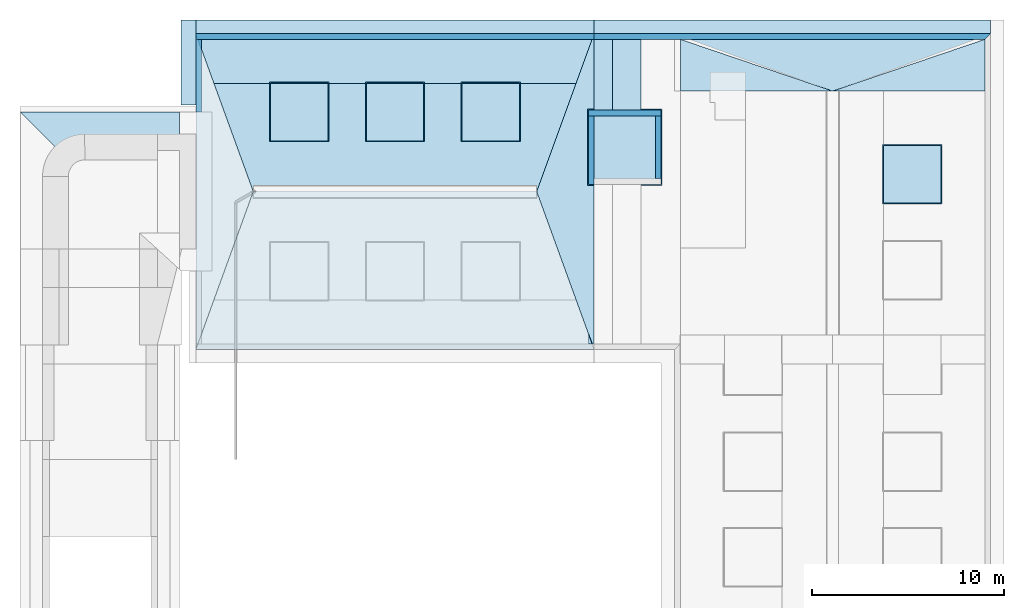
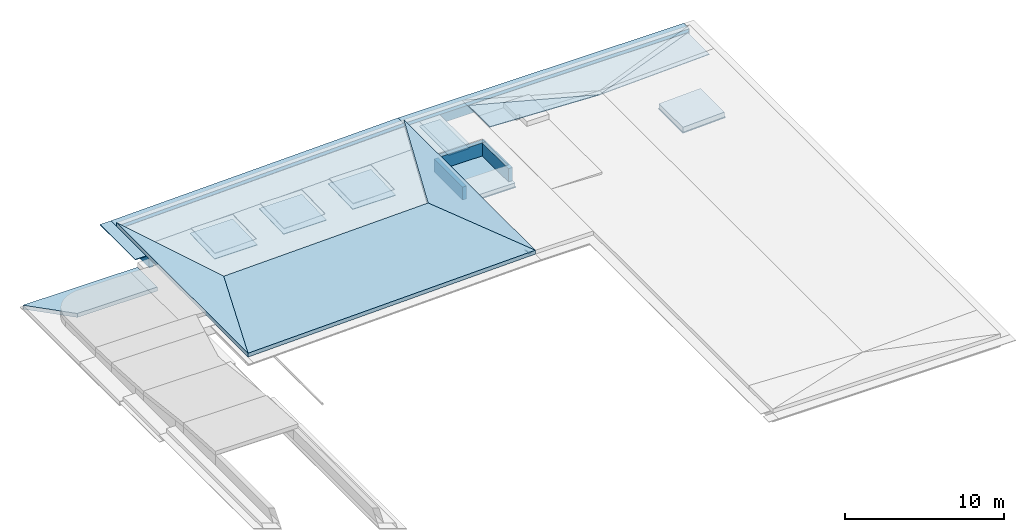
# One storey, part 4 of 8: 30 footings, 3 slabs.
"""IFC4 building model written with IfcOpenShell, lengths in millimetres."""

from ifc_helpers import new_model, entity, si_unit, converted_unit, derived_unit, direction, frame, origin_with_axes, place, context, subcontext, project, spatial, polygons, material, type_object, element, save


model = new_model("IFC4")

# Units and contexts
model_context = context("Model", 3, precision=0.01, world=origin_with_axes(), true_north=direction((0.0, 1.0)))
body_context = subcontext(model_context, "Body", "Model", "MODEL_VIEW")
ifc_project = project(units=[si_unit("LENGTHUNIT", "METRE", prefix="MILLI"), si_unit("AREAUNIT", "SQUARE_METRE"), si_unit("VOLUMEUNIT", "CUBIC_METRE"), converted_unit("PLANEANGLEUNIT", "DEGREE", entity("IfcPlaneAngleMeasure", 0.0174532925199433), si_unit("PLANEANGLEUNIT", "RADIAN"), dimensions=[0, 0, 0, 0, 0, 0, 0]), converted_unit("TIMEUNIT", "Year", entity("IfcTimeMeasure", 31557600.0), si_unit("TIMEUNIT", "SECOND"), dimensions=[0, 0, 1, 0, 0, 0, 0]), si_unit("MASSUNIT", "GRAM", prefix="KILO"), si_unit("THERMODYNAMICTEMPERATUREUNIT", "DEGREE_CELSIUS"), si_unit("LUMINOUSINTENSITYUNIT", "LUMEN"), si_unit("ENERGYUNIT", "JOULE", prefix="MEGA"), derived_unit("THERMALCONDUCTANCEUNIT", [(si_unit("POWERUNIT", "WATT"), 1), (si_unit("LENGTHUNIT", "METRE"), -1), (si_unit("THERMODYNAMICTEMPERATUREUNIT", "KELVIN"), -1)]), derived_unit("SPECIFICHEATCAPACITYUNIT", [(si_unit("ENERGYUNIT", "JOULE"), 1), (si_unit("MASSUNIT", "GRAM", prefix="KILO"), -1), (si_unit("THERMODYNAMICTEMPERATUREUNIT", "KELVIN"), -1)]), derived_unit("MASSDENSITYUNIT", [(si_unit("MASSUNIT", "GRAM", prefix="KILO"), 1), (si_unit("VOLUMEUNIT", "CUBIC_METRE"), -1)])], contexts=[model_context])

# Site, building, storey
site_placement = place(None, origin_with_axes())
site = spatial("IfcSite", under=ifc_project, at=site_placement, Name="Gelände", CompositionType="ELEMENT")
building_placement = place(site_placement, origin_with_axes())
building = spatial("IfcBuilding", under=site, at=building_placement, Name="Gebäude", CompositionType="ELEMENT")
storey_placement = place(building_placement, frame((0.0, 0.0, -6000.0), z_axis=(0.0, 0.0, 1.0), x_axis=(1.0, 0.0, 0.0)))
storey = spatial("IfcBuildingStorey", under=building, at=storey_placement, Name="Fundation", CompositionType="ELEMENT", Elevation=-6000.0)

# Footings
ifc_material_1 = material(Name="Magerbeton")
footing_type_1 = type_object("IfcFootingType", Name="Magerbeton 50", PredefinedType="NOTDEFINED")
footing_1_placement = place(storey_placement, frame((13728.998626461, 38005.28956516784, 2349.956716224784), z_axis=(0.0, 0.0, 1.0), x_axis=(-0.7208330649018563, 0.6931087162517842, 0.0)))
element("IfcFooting", 1, at=footing_1_placement, inside=storey, type_object=footing_type_1, material=ifc_material_1, Name="Dach-008", PredefinedType="NOTDEFINED", context=body_context, shape_type="Tessellation", body=[
    polygons([(-1474.721182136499, 8026.199801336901, -283.9951956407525), (960.1485681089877, 2529.943929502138, -55.24921381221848), (3089.754733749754, 4577.642165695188, -140.4713640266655), (1011.213450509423, 6739.325100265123, -230.4373875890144), (3173.712658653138, 8818.651261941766, -316.9758449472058), (5252.25394189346, 6656.968327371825, -227.0098213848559), (6693.920012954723, 8043.185703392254, -284.7021235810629), (4623.668678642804, 10196.24709107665, -374.3093312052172), (6786.167886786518, 12275.5732527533, -460.8477885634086), (8856.419221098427, 10122.5118650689, -371.2405809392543), (10298.08549526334, 11508.72943638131, -428.932891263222), (8219.65318494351, 13670.29903911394, -518.8941981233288), (10382.15239308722, 15749.62520079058, -605.4326554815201), (12460.58470340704, 13588.05559805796, -515.4713486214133), (14590.19086904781, 15635.75383425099, -600.6934988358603), (9193.608028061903, 18284.2086572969, -710.9182432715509), (9401.540663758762, 18067.95871617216, -701.9182428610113), (-1266.788546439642, 7809.949860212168, -274.9951952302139), (-1474.721182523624, 8026.19980116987, -334.0384792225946), (960.1485678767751, 2529.943929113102, -105.2924973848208), (3089.754733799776, 4577.642166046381, -190.5146476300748), (1011.213450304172, 6739.325100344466, -280.4806711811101), (3173.712658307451, 8818.651261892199, -367.0191285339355), (5252.253941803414, 6656.968327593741, -277.053104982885), (6693.920013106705, 8043.18570317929, -334.7454071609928), (4623.668678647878, 10196.2470908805, -424.352614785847), (6786.167886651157, 12275.57325242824, -510.8910721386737), (8856.419221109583, 10122.51186472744, -421.2838645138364), (10298.08549544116, 11508.72943665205, -478.9761748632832), (8219.653185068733, 13670.29903955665, -568.937481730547), (10382.15239307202, 15749.62520110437, -655.4759390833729), (12460.58470344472, 13588.05559819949, -565.5146322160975), (14590.19086936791, 15635.75383420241, -650.7367824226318), (9193.608028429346, 18284.20865724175, -760.9615268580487), (9401.540663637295, 18067.95871624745, -751.9615264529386), (-1266.788546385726, 7809.949860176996, -325.0384788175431)], [[[1, 2, 3, 4, 5, 6, 7, 8, 9, 10, 11, 12, 13, 14, 15, 16, 17, 18]], [[2, 1, 19, 20]], [[3, 2, 20, 21]], [[4, 3, 21, 22]], [[5, 4, 22, 23]], [[6, 5, 23, 24]], [[7, 6, 24, 25]], [[8, 7, 25, 26]], [[9, 8, 26, 27]], [[10, 9, 27, 28]], [[11, 10, 28, 29]], [[12, 11, 29, 30]], [[13, 12, 30, 31]], [[14, 13, 31, 32]], [[15, 14, 32, 33]], [[16, 15, 33, 34]], [[17, 16, 34, 35]], [[18, 17, 35, 36]], [[1, 18, 36, 19]], [[20, 19, 36, 35, 34, 33, 32, 31, 30, 29, 28, 27, 26, 25, 24, 23, 22, 21]]], closed=True),
])
footing_2_placement = place(storey_placement, frame((13728.998626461, 38005.28956516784, 2349.956716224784), z_axis=(0.0, 0.0, 1.0), x_axis=(-0.7208330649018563, 0.6931087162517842, 0.0)))
element("IfcFooting", 2, at=footing_2_placement, inside=storey, type_object=footing_type_1, material=ifc_material_1, Name="Dach-008", PredefinedType="NOTDEFINED", context=body_context, shape_type="Tessellation", body=[
    polygons([(960.1486092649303, 2529.943886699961, -55.24921203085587), (1951.630216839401, 291.8625043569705, 37.89640112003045), (16650.07175211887, 14424.9793652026, -550.3028690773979), (16286.1898195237, 14803.41657510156, -566.0528620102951), (14590.19091020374, 15635.75379144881, -600.6934970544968), (960.1486088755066, 2529.9438870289, -105.2924956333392), (1951.630216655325, 291.8625039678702, -12.14688245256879), (16650.07175188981, 14424.97936516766, -600.3461526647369), (16286.18981931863, 14803.41657511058, -616.096145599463), (14590.19091036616, 15635.75379118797, -650.7367806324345)], [[[1, 2, 3, 4, 5]], [[2, 1, 6, 7]], [[3, 2, 7, 8]], [[4, 3, 8, 9]], [[5, 4, 9, 10]], [[5, 10, 6, 1]], [[7, 6, 10, 9, 8]]], closed=True),
])
footing_3_placement = place(storey_placement, frame((-8571.002555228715, 39447.59725747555, 1750.001432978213), z_axis=(0.0, 0.0, 1.0), x_axis=(0.0, 1.0, 0.0)))
element("IfcFooting", 3, at=footing_3_placement, inside=storey, type_object=footing_type_1, material=ifc_material_1, Name="Dach-009", PredefinedType="NOTDEFINED", context=body_context, shape_type="Tessellation", body=[
    polygons([(0.0, -20800.01001027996, 649.998567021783), (710.0000000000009, -20800.01001027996, 649.998567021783), (710.0000000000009, 0.0, 50.02079662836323), (0.0, 0.0, 50.02079662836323), (-3.895195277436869e-07, -20800.01001066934, 599.9777705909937), (709.9999995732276, -20800.01001066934, 599.9777705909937), (709.9999995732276, 2.153228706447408e-07, 1.801305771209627e-07), (-3.895195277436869e-07, 2.153228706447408e-07, 1.801305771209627e-07)], [[[1, 2, 3, 4]], [[2, 1, 5, 6]], [[3, 2, 6, 7]], [[4, 3, 7, 8]], [[1, 4, 8, 5]], [[6, 5, 8, 7]]], closed=True),
])
footing_4_placement = place(storey_placement, frame((16428.9973313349, 39447.59728131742, 2373.700024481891), z_axis=(0.0, 0.0, 1.0), x_axis=(1.0, 0.0, 0.0)))
element("IfcFooting", 4, at=footing_4_placement, inside=storey, type_object=footing_type_1, material=ifc_material_1, Name="Dach-009", PredefinedType="NOTDEFINED", context=body_context, shape_type="Tessellation", body=[
    polygons([(16200.00000000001, -300.0000238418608, 15.04690417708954), (300.0000000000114, -300.0000238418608, 15.04690417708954), (8250.000000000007, -3000.0, -302.6350957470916), (16200.00000038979, -300.0000234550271, -35.29800287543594), (300.0000000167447, -300.0000234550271, -35.29800287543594), (8250.000000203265, -3000.000000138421, -352.9800028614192)], [[[1, 2, 3]], [[2, 1, 4, 5]], [[3, 2, 5, 6]], [[1, 3, 6, 4]], [[5, 4, 6]]], closed=True),
])
footing_5_placement = place(storey_placement, frame((24678.9974447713, 36447.59728131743, 2021.024944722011), z_axis=(0.0, 0.0, 1.0), x_axis=(0.0, 1.0, 0.0)))
element("IfcFooting", 5, at=footing_5_placement, inside=storey, type_object=footing_type_1, material=ifc_material_1, Name="Dach-009", PredefinedType="NOTDEFINED", context=body_context, shape_type="Tessellation", body=[
    polygons([(2699.999976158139, -7950.000000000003, 368.0399840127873), (0.0, 0.0, 50.03998401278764), (0.0, -7950.000000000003, 368.0399840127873), (2699.999976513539, -7950.000000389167, 318.0000002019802), (-3.895195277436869e-07, 1.831637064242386e-07, 1.790869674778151e-07), (-3.895195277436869e-07, -7950.000000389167, 318.0000002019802)], [[[1, 2, 3]], [[2, 1, 4, 5]], [[3, 2, 5, 6]], [[1, 3, 6, 4]], [[5, 4, 6]]], closed=True),
])
footing_6_placement = place(storey_placement, frame((24678.9974447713, 39447.59728131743, 2021.024944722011), z_axis=(0.0, 0.0, 1.0), x_axis=(0.0, -1.0, 0.0)))
element("IfcFooting", 6, at=footing_6_placement, inside=storey, type_object=footing_type_1, material=ifc_material_1, Name="Dach-009", PredefinedType="NOTDEFINED", context=body_context, shape_type="Tessellation", body=[
    polygons([(300.0000238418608, -7949.999999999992, 368.0399840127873), (3000.0, -7950.000000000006, 368.0399840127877), (3000.0, 0.0, 50.03998401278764), (300.0000234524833, -7950.000000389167, 318.0000002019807), (3000.000000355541, -7950.000000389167, 318.0000002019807), (3000.000000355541, 1.831601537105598e-07, 1.790874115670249e-07)], [[[1, 2, 3]], [[2, 1, 4, 5]], [[3, 2, 5, 6]], [[1, 3, 6, 4]], [[5, 4, 6]]], closed=True),
])
footing_7_placement = place(storey_placement, frame((3378.997492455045, 36908.89159409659, 1572.371917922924), z_axis=(0.0, 0.0, 1.0), x_axis=(-1.0, 0.0, 0.0)))
element("IfcFooting", 7, at=footing_7_placement, inside=storey, type_object=footing_type_1, material=ifc_material_1, Name="Dach-009", PredefinedType="NOTDEFINED", context=body_context, shape_type="Tessellation", body=[
    polygons([(0.0, 0.0, 50.0215173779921), (3100.000000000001, 0.0, 50.0215173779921), (3100.000000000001, 3097.524291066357, -40.86220584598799), (0.0, 3097.524291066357, -40.86220584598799), (-3.89516419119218e-07, -3.894200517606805e-07, 1.977706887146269e-07), (3100.000000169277, -3.894200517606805e-07, 1.977706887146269e-07), (3100.000000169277, 3097.524290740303, -90.88372302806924), (-3.89516419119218e-07, 3097.524290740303, -90.88372302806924)], [[[1, 2, 3, 4]], [[2, 1, 5, 6]], [[3, 2, 6, 7]], [[4, 3, 7, 8]], [[1, 4, 8, 5]], [[6, 5, 8, 7]]], closed=True),
])
footing_8_placement = place(storey_placement, frame((8378.997492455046, 36908.6629722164, 1726.833414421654), z_axis=(0.0, 0.0, 1.0), x_axis=(-1.0, 0.0, 0.0)))
element("IfcFooting", 8, at=footing_8_placement, inside=storey, type_object=footing_type_1, material=ifc_material_1, Name="Dach-009", PredefinedType="NOTDEFINED", context=body_context, shape_type="Tessellation", body=[
    polygons([(0.0, 0.0, 50.02151737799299), (3100.000000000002, 0.0, 50.02151737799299), (3100.000000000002, 3097.524291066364, -40.8622058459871), (0.0, 3097.524291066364, -40.8622058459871), (-3.895159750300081e-07, -3.894200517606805e-07, 1.977706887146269e-07), (3100.000000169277, -3.894200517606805e-07, 1.977706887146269e-07), (3100.000000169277, 3097.524290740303, -90.88372302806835), (-3.895159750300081e-07, 3097.524290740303, -90.88372302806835)], [[[1, 2, 3, 4]], [[2, 1, 5, 6]], [[3, 2, 6, 7]], [[4, 3, 7, 8]], [[1, 4, 8, 5]], [[6, 5, 8, 7]]], closed=True),
])
footing_9_placement = place(storey_placement, frame((-1621.002507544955, 36910.28670883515, 1428.139015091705), z_axis=(0.0, 0.0, 1.0), x_axis=(-1.0, 0.0, 0.0)))
element("IfcFooting", 9, at=footing_9_placement, inside=storey, type_object=footing_type_1, material=ifc_material_1, Name="Dach-009", PredefinedType="NOTDEFINED", context=body_context, shape_type="Tessellation", body=[
    polygons([(0.0, 0.0, 50.0215173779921), (3100.000000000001, 0.0, 50.0215173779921), (3100.000000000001, 3097.524291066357, -40.86220584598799), (0.0, 3097.524291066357, -40.86220584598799), (-3.89516419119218e-07, -3.894200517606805e-07, 1.977706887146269e-07), (3100.000000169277, -3.894200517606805e-07, 1.977706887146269e-07), (3100.000000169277, 3097.524290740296, -90.88372302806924), (-3.89516419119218e-07, 3097.524290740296, -90.88372302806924)], [[[1, 2, 3, 4]], [[2, 1, 5, 6]], [[3, 2, 6, 7]], [[4, 3, 7, 8]], [[1, 4, 8, 5]], [[6, 5, 8, 7]]], closed=True),
])
footing_10_placement = place(storey_placement, frame((30393.75530074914, 30547.5972813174, 1872.231201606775), z_axis=(0.0, 0.0, 1.0), x_axis=(0.0, 1.0, 0.0)))
element("IfcFooting", 10, at=footing_10_placement, inside=storey, type_object=footing_type_1, material=ifc_material_1, Name="Dach-009", PredefinedType="NOTDEFINED", context=body_context, shape_type="Tessellation", body=[
    polygons([(0.0, 0.0, 50.03996270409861), (3099.999999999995, 0.0, 50.03996270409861), (3099.999999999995, 3097.524291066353, -73.82797606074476), (0.0, 3097.524291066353, -73.82797606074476), (-3.895159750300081e-07, -3.891642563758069e-07, 2.019753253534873e-07), (3100.000000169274, -3.891642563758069e-07, 2.019753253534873e-07), (3100.000000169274, 3097.524291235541, -123.867938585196), (-3.895159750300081e-07, 3097.524291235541, -123.867938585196)], [[[1, 2, 3, 4]], [[2, 1, 5, 6]], [[3, 2, 6, 7]], [[4, 3, 7, 8]], [[1, 4, 8, 5]], [[6, 5, 8, 7]]], closed=True),
])
footing_11_placement = place(storey_placement, frame((13178.99744477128, 35447.59728131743, 2000.0), z_axis=(0.0, 0.0, 1.0), x_axis=(1.0, 0.0, 0.0)))
element("IfcFooting", 11, at=footing_11_placement, inside=storey, type_object=footing_type_1, material=ifc_material_1, Name="Deckennr.-072", PredefinedType="NOTDEFINED", context=body_context, shape_type="Tessellation", body=[
    polygons([(1500.0, 0.0, 49.99999999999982), (0.0, 0.0, 49.99999999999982), (0.0, 0.0, 0.0), (1500.0, 0.0, 0.0), (1500.0, 3699.999976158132, 49.99999999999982), (0.0, 3699.999976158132, 49.99999999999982), (0.0, 3699.999976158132, 0.0), (1500.0, 3699.999976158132, 0.0)], [[[1, 2, 3, 4]], [[5, 6, 2, 1]], [[2, 6, 7, 3]], [[8, 4, 3, 7]], [[5, 1, 4, 8]], [[6, 5, 8, 7]]], closed=True),
])
footing_12_placement = place(storey_placement, frame((24678.99744477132, 39447.59728131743, 2021.024944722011), z_axis=(0.0, 0.0, 1.0), x_axis=(0.0, -1.0, 0.0)))
element("IfcFooting", 12, at=footing_12_placement, inside=storey, type_object=footing_type_1, material=ifc_material_1, Name="Dach-009", PredefinedType="NOTDEFINED", context=body_context, shape_type="Tessellation", body=[
    polygons([(300.0000238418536, -7949.999999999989, 368.0399840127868), (2999.999999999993, -7949.999999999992, 368.0399840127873), (3000.0, 0.0, 50.03998401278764), (300.0000234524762, -7950.000000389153, 318.0000002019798), (3000.000000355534, -7950.000000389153, 318.0000002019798), (3000.000000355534, 1.83174364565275e-07, 1.790865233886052e-07)], [[[1, 2, 3]], [[2, 1, 4, 5]], [[3, 2, 5, 6]], [[1, 3, 6, 4]], [[5, 4, 6]]], closed=True),
])
footing_13_placement = place(storey_placement, frame((12228.99744477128, 39147.59725747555, 2349.691005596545), z_axis=(0.0, 0.0, 1.0), x_axis=(0.0, -1.0, 0.0)))
element("IfcFooting", 13, at=footing_13_placement, inside=storey, type_object=footing_type_1, material=ifc_material_1, Name="Dach-009", PredefinedType="NOTDEFINED", context=body_context, shape_type="Tessellation", body=[
    polygons([(15900.00000000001, -294.4667584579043, 17.52125185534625), (15900.00000000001, -109.0909090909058, 38.1621406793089), (15390.21641424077, -294.4667584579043, 17.52125185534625), (15900.00000038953, -294.4667586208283, -32.78774237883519), (15900.00000038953, -109.090908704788, -12.14685349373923), (15390.21641390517, -294.4667586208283, -32.78774237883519)], [[[1, 2, 3]], [[2, 1, 4, 5]], [[3, 2, 5, 6]], [[1, 3, 6, 4]], [[5, 4, 6]]], closed=True),
])
footing_type_2 = type_object("IfcFootingType", Name="Magerbeton 50", PredefinedType="NOTDEFINED")
footing_14_placement = place(storey_placement, frame((12228.99744477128, 40157.59725747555, 2400.0), z_axis=(0.0, 0.0, 1.0), x_axis=(1.0, 0.0, 0.0)))
element("IfcFooting", 14, at=footing_14_placement, inside=storey, type_object=footing_type_2, material=ifc_material_1, Name="Deckennr.-072", PredefinedType="NOTDEFINED", context=body_context, shape_type="Tessellation", body=[
    polygons([(0.0, 0.0, 0.0), (0.0, 0.0, -49.99999999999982), (0.0, -710.0000000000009, -49.99999999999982), (0.0, -710.0000000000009, 0.0), (20700.00000000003, 0.0, 0.0), (20700.00000000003, 0.0, -49.99999999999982), (20700.00000000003, -710.0000000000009, -49.99999999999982), (20700.00000000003, -710.0000000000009, 0.0)], [[[1, 2, 3, 4]], [[5, 6, 2, 1]], [[3, 2, 6, 7]], [[4, 3, 7, 8]], [[5, 1, 4, 8]], [[8, 7, 6, 5]]], closed=True),
])
footing_15_placement = place(storey_placement, frame((-9357.202330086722, 35725.86225836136, 1800.0), z_axis=(0.0, 0.0, 1.0), x_axis=(1.0, 0.0, 0.0)))
element("IfcFooting", 15, at=footing_15_placement, inside=storey, type_object=footing_type_2, material=ifc_material_1, Name="Deckennr.-072", PredefinedType="NOTDEFINED", context=body_context, shape_type="Tessellation", body=[
    polygons([(0.0, 0.0, 0.0), (0.0, 0.0, -49.99999999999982), (786.199774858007, 0.0, -49.99999999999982), (786.199774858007, 0.0, 0.0), (0.0, 4431.734999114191, 0.0), (0.0, 4431.734999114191, -49.99999999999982), (786.199774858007, 4431.734999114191, -49.99999999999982), (786.199774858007, 4431.734999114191, 0.0)], [[[1, 2, 3, 4]], [[5, 6, 2, 1]], [[3, 2, 6, 7]], [[4, 3, 7, 8]], [[5, 1, 4, 8]], [[8, 7, 6, 5]]], closed=True),
])
footing_16_placement = place(storey_placement, frame((13178.99745607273, 39147.59725747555, 2400.0), z_axis=(0.0, 0.0, 1.0), x_axis=(1.0, 0.0, 0.0)))
element("IfcFooting", 16, at=footing_16_placement, inside=storey, type_object=footing_type_2, material=ifc_material_1, Name="Deckennr.-070", PredefinedType="NOTDEFINED", context=body_context, shape_type="Tessellation", body=[
    polygons([(0.0, 0.0, 0.0), (0.0, 0.0, -49.99999999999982), (-950.0000113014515, 0.0, -49.99999999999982), (-950.0000113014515, 0.0, 0.0), (0.0, -3699.999976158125, 0.0), (0.0, -3699.999976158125, -49.99999999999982), (-950.0000113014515, -3699.999976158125, -49.99999999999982), (-950.0000113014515, -3699.999976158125, 0.0)], [[[1, 2, 3, 4]], [[5, 6, 2, 1]], [[3, 2, 6, 7]], [[4, 3, 7, 8]], [[5, 1, 4, 8]], [[8, 7, 6, 5]]], closed=True),
])
footing_17_placement = place(storey_placement, frame((11878.99744477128, 31522.59728131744, 1100.0), z_axis=(0.0, 0.0, 1.0), x_axis=(1.0, 0.0, 0.0)))
element("IfcFooting", 17, at=footing_17_placement, inside=storey, type_object=footing_type_2, material=ifc_material_1, Name="Deckennr.-069", PredefinedType="NOTDEFINED", context=body_context, shape_type="Tessellation", body=[
    polygons([(0.0, 0.0, 0.0), (0.0, 0.0, -49.99999999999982), (3899.999894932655, 0.0, -49.99999999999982), (3899.999894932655, 0.0, 0.0), (0.0, 3974.999999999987, 0.0), (0.0, 3974.999999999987, -49.99999999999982), (3899.999894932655, 3974.999999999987, -49.99999999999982), (3899.999894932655, 3974.999999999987, 0.0)], [[[1, 2, 3, 4]], [[5, 6, 2, 1]], [[3, 2, 6, 7]], [[4, 3, 7, 8]], [[5, 1, 4, 8]], [[8, 7, 6, 5]]], closed=True),
])
ifc_material_2 = material(Name="Beton bewehrt")
footing_type_3 = type_object("IfcFootingType", Name="Beton bewehrt 300 x 700", PredefinedType="NOTDEFINED")
footing_18_placement = place(storey_placement, frame((12232.04097066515, 39447.59725747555, 2420.233331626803), z_axis=(0.0, 0.0, 1.0), x_axis=(0.0, 1.0, 0.0)))
element("IfcFooting", 18, at=footing_18_placement, inside=storey, type_object=footing_type_3, material=ifc_material_2, Name="Unterzug-026", PredefinedType="NOTDEFINED", context=body_context, shape_type="Tessellation", body=[
    polygons([(0.0, 0.0, -700.3111237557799), (-299.9999999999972, 0.0, -700.3111237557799), (-299.9999999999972, 20803.04352589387, -1320.619568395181), (0.0, 20803.04352589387, -1320.619568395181), (0.0, 0.0, 0.0), (-299.9999999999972, 0.0, 0.0), (-299.9999999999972, 20803.04352589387, -620.3084446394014), (0.0, 20803.04352589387, -620.3084446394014)], [[[1, 2, 3, 4]], [[5, 6, 2, 1]], [[2, 6, 7, 3]], [[8, 4, 3, 7]], [[5, 1, 4, 8]], [[6, 5, 8, 7]]], closed=True),
])
footing_19_placement = place(storey_placement, frame((32928.9974447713, 39447.59725747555, 2399.999999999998), z_axis=(0.0, 0.0, 1.0), x_axis=(0.0, 1.0, 0.0)))
element("IfcFooting", 19, at=footing_19_placement, inside=storey, type_object=footing_type_3, material=ifc_material_2, Name="Unterzug-026", PredefinedType="NOTDEFINED", context=body_context, shape_type="Tessellation", body=[
    polygons([(0.0, 20700.00000000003, -699.9999999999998), (0.0, 20700.00000000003, -680.1685444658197), (0.0, 20696.95647410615, -680.0777921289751), (0.0, 20696.95647410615, 0.0), (0.0, 0.0, 0.0), (0.0, 0.0, -699.9999999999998), (-299.9999999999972, 20700.00000000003, -699.9999999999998), (-299.9999999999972, 20700.00000000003, -680.1685444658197), (-299.9999999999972, 20696.95647410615, -680.0777921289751), (-299.9999999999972, 20696.95647410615, 0.0), (-299.9999999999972, 299.9999999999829, 0.0), (-299.9999999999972, 299.9999999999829, -699.9999999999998)], [[[1, 2, 3, 4, 5, 6]], [[7, 8, 2, 1]], [[9, 3, 2, 8]], [[9, 10, 4, 3]], [[5, 4, 10, 11]], [[5, 11, 12, 6]], [[6, 12, 7, 1]], [[10, 9, 8, 7, 12, 11]]], closed=True),
])
footing_20_placement = place(storey_placement, frame((-8571.002555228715, 35347.59725747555, 1800.0), z_axis=(0.0, 0.0, 1.0), x_axis=(1.0, 0.0, 0.0)))
element("IfcFooting", 20, at=footing_20_placement, inside=storey, type_object=footing_type_3, material=ifc_material_2, Name="Unterzug-026", PredefinedType="NOTDEFINED", context=body_context, shape_type="Tessellation", body=[
    polygons([(300.0000000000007, 0.0, 0.0), (300.0000000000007, 3800.000000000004, 0.0), (0.0, 3800.000000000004, 0.0), (0.0, 0.0, 0.0), (300.0000000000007, 0.0, -700.0000000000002), (300.0000000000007, 3800.000000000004, -700.0000000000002), (0.0, 3800.000000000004, -700.0000000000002), (0.0, 0.0, -700.0000000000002)], [[[1, 2, 3, 4]], [[5, 6, 2, 1]], [[3, 2, 6, 7]], [[4, 3, 7, 8]], [[5, 1, 4, 8]], [[8, 7, 6, 5]]], closed=True),
])
footing_type_4 = type_object("IfcFootingType", Name="Beton bewehrt 3000 x 3000", PredefinedType="NOTDEFINED")
footing_21_placement = place(storey_placement, frame((-3171.002507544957, 35359.48647218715, 1432.697153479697), z_axis=(0.0, 0.0, 1.0), x_axis=(-1.0, 0.0, 0.0)))
element("IfcFooting", 21, at=footing_21_placement, inside=storey, type_object=footing_type_4, material=ifc_material_2, Name="Stütze-015", PredefinedType="NOTDEFINED", context=body_context, shape_type="Tessellation", body=[
    polygons([(-1500.0, -1487.623257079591, 443.9759951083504), (-1500.0, -1499.355232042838, 43.97599510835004), (1500.0, -1499.355232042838, 43.97599510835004), (1500.0, -1487.623257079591, 443.9759951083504), (-1500.0, 1511.087207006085, 356.0240048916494), (-1500.0, 1499.355232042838, -43.97599510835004), (1500.0, 1499.355232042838, -43.97599510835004), (1500.0, 1511.087207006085, 356.0240048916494)], [[[1, 2, 3, 4]], [[5, 6, 2, 1]], [[3, 2, 6, 7]], [[4, 3, 7, 8]], [[5, 1, 4, 8]], [[8, 7, 6, 5]]], closed=True),
])
footing_22_placement = place(storey_placement, frame((28844.99315521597, 32097.5972813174, 1835.75806920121), z_axis=(0.0, 0.0, 1.0), x_axis=(0.0, 1.0, 0.0)))
element("IfcFooting", 22, at=footing_22_placement, inside=storey, type_object=footing_type_4, material=ifc_material_2, Name="Stütze-015", PredefinedType="NOTDEFINED", context=body_context, shape_type="Tessellation", body=[
    polygons([(1500.0, 1514.797810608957, 340.0639005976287), (1500.0, 1498.802076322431, -59.93609940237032), (-1500.0, 1498.802076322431, -59.93609940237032), (-1500.0, 1514.797810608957, 340.0639005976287), (1500.0, -1482.806342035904, 459.9360994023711), (1500.0, -1498.802076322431, 59.9360994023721), (-1499.999999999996, -1498.802076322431, 59.9360994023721), (-1499.999999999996, -1482.806342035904, 459.9360994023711)], [[[1, 2, 3, 4]], [[5, 6, 2, 1]], [[3, 2, 6, 7]], [[4, 3, 7, 8]], [[5, 1, 4, 8]], [[8, 7, 6, 5]]], closed=True),
])
footing_23_placement = place(storey_placement, frame((6828.997492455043, 35359.32923243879, 1731.391552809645), z_axis=(0.0, 0.0, 1.0), x_axis=(-1.0, 0.0, 0.0)))
element("IfcFooting", 23, at=footing_23_placement, inside=storey, type_object=footing_type_4, material=ifc_material_2, Name="Stütze-015", PredefinedType="NOTDEFINED", context=body_context, shape_type="Tessellation", body=[
    polygons([(-1500.000000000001, -1487.623257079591, 443.9759951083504), (-1500.000000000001, -1499.355232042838, 43.97599510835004), (1500.0, -1499.355232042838, 43.97599510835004), (1500.0, -1487.623257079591, 443.9759951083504), (-1499.999999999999, 1511.087207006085, 356.024004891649), (-1499.999999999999, 1499.355232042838, -43.97599510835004), (1500.0, 1499.355232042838, -43.97599510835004), (1500.0, 1511.087207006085, 356.024004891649)], [[[1, 2, 3, 4]], [[5, 6, 2, 1]], [[3, 2, 6, 7]], [[4, 3, 7, 8]], [[5, 1, 4, 8]], [[8, 7, 6, 5]]], closed=True),
])
footing_24_placement = place(storey_placement, frame((1828.997492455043, 35359.55785431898, 1576.930056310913), z_axis=(0.0, 0.0, 1.0), x_axis=(-1.0, 0.0, 0.0)))
element("IfcFooting", 24, at=footing_24_placement, inside=storey, type_object=footing_type_4, material=ifc_material_2, Name="Stütze-015", PredefinedType="NOTDEFINED", context=body_context, shape_type="Tessellation", body=[
    polygons([(-1500.0, -1487.623257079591, 443.9759951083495), (-1500.0, -1499.355232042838, 43.97599510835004), (1500.0, -1499.355232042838, 43.97599510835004), (1500.0, -1487.623257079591, 443.9759951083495), (-1500.0, 1511.087207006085, 356.0240048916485), (-1500.0, 1499.355232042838, -43.97599510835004), (1500.0, 1499.355232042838, -43.97599510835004), (1500.0, 1511.087207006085, 356.0240048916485)], [[[1, 2, 3, 4]], [[5, 6, 2, 1]], [[3, 2, 6, 7]], [[4, 3, 7, 8]], [[5, 1, 4, 8]], [[8, 7, 6, 5]]], closed=True),
])
footing_type_5 = type_object("IfcFootingType", Name="Beton bewehrt 300", PredefinedType="NOTDEFINED")
footing_25_placement = place(storey_placement, frame((11928.99744477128, 31572.59728131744, 1400.0), z_axis=(0.0, 0.0, 1.0), x_axis=(1.0, 0.0, 0.0)))
element("IfcFooting", 25, at=footing_25_placement, inside=storey, type_object=footing_type_5, material=ifc_material_2, Name="Deckennr.-069", PredefinedType="NOTDEFINED", context=body_context, shape_type="Tessellation", body=[
    polygons([(0.0, 0.0, 0.0), (0.0, 0.0, -299.9999999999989), (3799.999894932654, 0.0, -299.9999999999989), (3799.999894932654, 0.0, 0.0), (0.0, 3874.99999999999, 0.0), (0.0, 3874.99999999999, -299.9999999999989), (3799.999894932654, 3874.99999999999, -299.9999999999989), (3799.999894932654, 3874.99999999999, 0.0)], [[[1, 2, 3, 4]], [[5, 6, 2, 1]], [[3, 2, 6, 7]], [[4, 3, 7, 8]], [[5, 1, 4, 8]], [[8, 7, 6, 5]]], closed=True),
])
footing_26_placement = place(storey_placement, frame((15728.99733970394, 35447.59728131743, 1400.0), z_axis=(0.0, 0.0, 1.0), x_axis=(-1.0, 0.0, 0.0)))
element("IfcFooting", 26, at=footing_26_placement, inside=storey, type_object=footing_type_5, material=ifc_material_2, Name="Wand-008", PredefinedType="NOTDEFINED", context=body_context, shape_type="Tessellation", body=[
    polygons([(3799.999894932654, 299.9999999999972, 0.0), (3799.999894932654, 0.0, 0.0), (0.0, 0.0, 0.0), (0.0, 299.9999999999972, 0.0), (3799.999894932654, 299.9999999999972, 999.9999999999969), (3799.999894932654, 0.0, 999.9999999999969), (0.0, 0.0, 999.9999999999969), (0.0, 299.9999999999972, 999.9999999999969)], [[[1, 2, 3, 4]], [[2, 1, 5, 6]], [[2, 6, 7, 3]], [[8, 4, 3, 7]], [[5, 1, 4, 8]], [[6, 5, 8, 7]]], closed=True),
])
footing_27_placement = place(storey_placement, frame((15728.99733970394, 31572.59728131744, 1400.0), z_axis=(0.0, 0.0, 1.0), x_axis=(0.0, 1.0, 0.0)))
element("IfcFooting", 27, at=footing_27_placement, inside=storey, type_object=footing_type_5, material=ifc_material_2, Name="Wand-011", PredefinedType="NOTDEFINED", context=body_context, shape_type="Tessellation", body=[
    polygons([(3574.999999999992, 300.0000000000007, 0.0), (3574.999999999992, 0.0, 0.0), (300.0000000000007, 0.0, 0.0), (300.0000000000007, 300.0000000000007, 0.0), (3574.999999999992, 300.0000000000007, 999.9999999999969), (3574.999999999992, 0.0, 999.9999999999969), (300.0000000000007, 0.0, 999.9999999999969), (300.0000000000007, 300.0000000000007, 999.9999999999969)], [[[1, 2, 3, 4]], [[2, 1, 5, 6]], [[2, 6, 7, 3]], [[8, 4, 3, 7]], [[5, 1, 4, 8]], [[6, 5, 8, 7]]], closed=True),
])
footing_28_placement = place(storey_placement, frame((11928.99744477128, 35447.59728131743, 1400.0), z_axis=(0.0, 0.0, 1.0), x_axis=(0.0, -1.0, 0.0)))
element("IfcFooting", 28, at=footing_28_placement, inside=storey, type_object=footing_type_5, material=ifc_material_2, Name="Wand-009", PredefinedType="NOTDEFINED", context=body_context, shape_type="Tessellation", body=[
    polygons([(3874.99999999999, 299.9999999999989, 0.0), (3874.99999999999, 0.0, 0.0), (299.9999999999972, 0.0, 0.0), (299.9999999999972, 300.0000000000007, 0.0), (3874.99999999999, 299.9999999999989, 999.9999999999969), (3874.99999999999, 0.0, 999.9999999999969), (299.9999999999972, 0.0, 999.9999999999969), (299.9999999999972, 300.0000000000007, 999.9999999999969)], [[[1, 2, 3, 4]], [[2, 1, 5, 6]], [[2, 6, 7, 3]], [[8, 4, 3, 7]], [[5, 1, 4, 8]], [[6, 5, 8, 7]]], closed=True),
])
footing_type_6 = type_object("IfcFootingType", Name="Beton bewehrt 2500 x 300", PredefinedType="NOTDEFINED")
footing_29_placement = place(storey_placement, frame((-17721.00255522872, 35347.59725747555, 1459.999998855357), z_axis=(0.0, 0.0, 1.0), x_axis=(0.0, -1.0, 0.0)))
element("IfcFooting", 29, at=footing_29_placement, inside=storey, type_object=footing_type_6, material=ifc_material_2, Name="Unterzug-025", PredefinedType="NOTDEFINED", context=body_context, shape_type="Tessellation", body=[
    polygons([(0.0, 0.0, -299.9999999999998), (0.0, 8299.999999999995, -299.9999999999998), (2500.0, 8299.999999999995, -300.0000000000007), (2500.0, 2499.999999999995, -300.0000000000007), (0.0, 0.0, 0.0), (0.0, 8299.999999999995, 0.0), (2500.0, 8299.999999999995, 0.0), (2500.0, 2499.999999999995, 0.0)], [[[1, 2, 3, 4]], [[5, 6, 2, 1]], [[3, 2, 6, 7]], [[4, 3, 7, 8]], [[5, 1, 4, 8]], [[8, 7, 6, 5]]], closed=True),
])
footing_type_7 = type_object("IfcFootingType", Name="Beton bewehrt 1500 x 350", PredefinedType="NOTDEFINED")
footing_30_placement = place(storey_placement, frame((13928.99744477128, 39147.59725747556, 2400.0), z_axis=(0.0, 0.0, 1.0), x_axis=(-1.0, 0.0, 0.0)))
element("IfcFooting", 30, at=footing_30_placement, inside=storey, type_object=footing_type_7, material=ifc_material_2, Name="Unterzug-024", PredefinedType="NOTDEFINED", context=body_context, shape_type="Tessellation", body=[
    polygons([(750.0, 0.0, 0.0), (750.0, 3699.999976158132, 0.0), (-750.0, 3699.999976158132, 0.0), (-750.0, 0.0, 0.0), (750.0, 0.0, -350.0000000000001), (750.0, 3699.999976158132, -350.0000000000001), (-750.0, 3699.999976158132, -350.0000000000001), (-750.0, 0.0, -350.0000000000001)], [[[1, 2, 3, 4]], [[5, 6, 2, 1]], [[3, 2, 6, 7]], [[4, 3, 7, 8]], [[5, 1, 4, 8]], [[8, 7, 6, 5]]], closed=True),
])

# Slabs
slab_type = type_object("IfcSlabType", Name="Beton bewehrt 300", PredefinedType="NOTDEFINED")
slab_1_placement = place(storey_placement, frame((10728.99862646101, 21505.28956516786, 2399.923207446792), z_axis=(0.0, 0.0, 1.0), x_axis=(0.7208330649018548, 0.6931087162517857, 0.0)))
element("IfcSlab", 31, at=slab_1_placement, inside=storey, type_object=slab_type, material=ifc_material_2, Name="Dach-008", PredefinedType="NOTDEFINED", context=body_context, shape_type="Tessellation", body=[
    polygons([(-12912.40293697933, 14416.66208402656, -299.9232074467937), (2080.924829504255, 0.0008031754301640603, 300.0767591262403), (5636.572492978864, 8026.199753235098, -33.9616848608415), (-5031.756798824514, 18284.20868766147, -460.8847357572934), (-12912.40293736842, 14416.6620843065, -600.0000001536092), (2080.924829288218, 0.0008027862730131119, -3.355272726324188e-05), (5636.572493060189, 8026.199753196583, -334.0384775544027), (-5031.756798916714, 18284.20868742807, -760.9615284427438)], [[[1, 2, 3, 4]], [[2, 1, 5, 6]], [[3, 2, 6, 7]], [[4, 3, 7, 8]], [[1, 4, 8, 5]], [[6, 5, 8, 7]]], closed=True),
])
slab_2_placement = place(storey_placement, frame((12228.99744477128, 39447.59725747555, 2398.146033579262), z_axis=(0.0, 0.0, 1.0), x_axis=(0.0, -1.0, 0.0)))
element("IfcSlab", 32, at=slab_2_placement, inside=storey, type_object=slab_type, material=ifc_material_2, Name="Dach-009", PredefinedType="NOTDEFINED", context=body_context, shape_type="Tessellation", body=[
    polygons([(16500.00000000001, 0.0, 301.8539664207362), (0.0, 0.0, 301.8539664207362), (8250.0, -3000.000000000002, -32.18451099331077), (16500.00000039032, 3.872422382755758e-07, 2.305338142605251e-07), (3.887379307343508e-07, 3.872422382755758e-07, 2.305338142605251e-07), (8250.00000038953, -2999.999999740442, -334.0384771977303)], [[[1, 2, 3]], [[2, 1, 4, 5]], [[3, 2, 5, 6]], [[1, 3, 6, 4]], [[5, 4, 6]]], closed=True),
])
slab_3_placement = place(storey_placement, frame((-8571.002459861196, 22947.59725747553, 1799.568498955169), z_axis=(0.0, 0.0, 1.0), x_axis=(0.0, 1.0, 0.0)))
element("IfcSlab", 33, at=slab_3_placement, inside=storey, type_object=slab_type, material=ifc_material_2, Name="Dach-009", PredefinedType="NOTDEFINED", context=body_context, shape_type="Tessellation", body=[
    polygons([(8250.000000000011, -3000.000000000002, 139.4699727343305), (16500.00000000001, 0.0, 300.4314999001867), (0.0, 0.0, 300.4314999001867), (8250.000000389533, -2999.999999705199, -160.9615269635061), (16500.00000039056, 3.892708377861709e-07, 2.074180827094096e-07), (3.885105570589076e-07, 3.892708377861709e-07, 2.074180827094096e-07)], [[[1, 2, 3]], [[2, 1, 4, 5]], [[3, 2, 5, 6]], [[1, 3, 6, 4]], [[5, 4, 6]]], closed=True),
])

save(model, "model.ifc")
